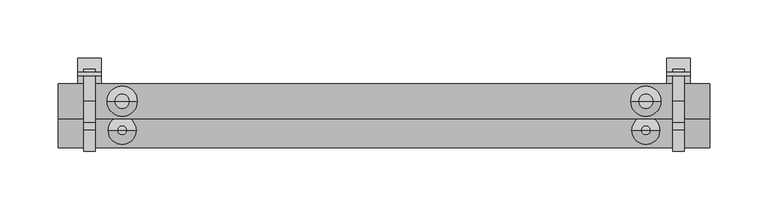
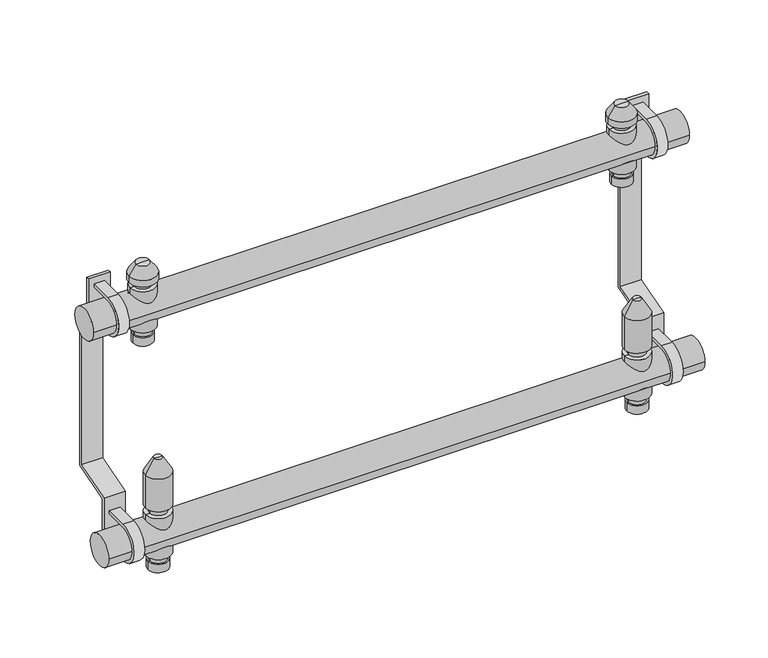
"""IFC4 building model written with IfcOpenShell, lengths in millimetres: valve geometry, PL CZ_Manifold_FT-VA : 10 circuits."""

from ifc_helpers import new_model, si_unit, point, frame, frame_2d, origin, origin_2d, place, context, project, spatial, polyline, circle_curve, trimmed, segment, composite_curve, outline, extrude, source, transform, mapped, element, save
from ifc_brep_helpers import plane_surface, cylinder_surface, revolved_surface, advanced_brep


def valve_1d137561(model_context):
    return source(origin(), model_context, "Body", "SolidModel", [
        advanced_brep(
        [(478.5, 0.0, -35.11267), (497.5, 0.0, -35.11267), (488.0, 0.0, -35.11267), (478.5, 0.0, -27.0369646), (497.5, 0.0, -27.0369646), (480.0, 0.0, -27.0369646), (496.0, 0.0, -27.0369646), (480.0, 0.0, -20.330253), (496.0, 0.0, -20.330253), (476.0, 0.0, -20.330253), (500.0, 0.0, -20.330253), (476.0, 0.0, 20.330253), (500.0, 0.0, 20.330253), (480.0, 0.0, 20.330253), (496.0, 0.0, 20.330253), (480.0, 0.0, 27.0474786), (496.0, 0.0, 27.0474786), (476.0, 0.0, 27.0474786), (500.0, 0.0, 27.0474786), (476.0, 0.0, 59.4084325), (500.0, 0.0, 59.4084325), (484.0, 0.0, 73.264839), (492.0, 0.0, 73.264839), (488.0, 0.0, 73.264839)],
        [
            (0, 1, circle_curve(frame((488.0, 0.0, -35.11267), z_axis=(0.0, 0.0, -1.0), x_axis=(1.0, 0.0, 0.0)), 9.5)),
            (1, 2),
            (2, 0),
            (1, 0, circle_curve(frame((488.0, 0.0, -35.11267), z_axis=(0.0, 0.0, -1.0), x_axis=(1.0, 0.0, 0.0)), 9.5)),
            (3, 4, circle_curve(frame((488.0, 0.0, -27.0369646), z_axis=(0.0, 0.0, -1.0), x_axis=(1.0, 0.0, 0.0)), 9.5)),
            (4, 1),
            (0, 3),
            (4, 3, circle_curve(frame((488.0, 0.0, -27.0369646), z_axis=(0.0, 0.0, -1.0), x_axis=(1.0, 0.0, 0.0)), 9.5)),
            (5, 6, circle_curve(frame((488.0, 0.0, -27.0369646), z_axis=(0.0, 0.0, -1.0), x_axis=(1.0, 0.0, 0.0)), 8.0)),
            (6, 4),
            (3, 5),
            (6, 5, circle_curve(frame((488.0, 0.0, -27.0369646), z_axis=(0.0, 0.0, -1.0), x_axis=(1.0, 0.0, 0.0)), 8.0)),
            (7, 8, circle_curve(frame((488.0, 0.0, -20.330253), z_axis=(0.0, 0.0, -1.0), x_axis=(1.0, 0.0, 0.0)), 8.0)),
            (8, 6),
            (5, 7),
            (8, 7, circle_curve(frame((488.0, 0.0, -20.330253), z_axis=(0.0, 0.0, -1.0), x_axis=(1.0, 0.0, 0.0)), 8.0)),
            (9, 10, circle_curve(frame((488.0, 0.0, -20.330253), z_axis=(0.0, 0.0, -1.0), x_axis=(1.0, 0.0, 0.0)), 12.0)),
            (10, 8),
            (7, 9),
            (10, 9, circle_curve(frame((488.0, 0.0, -20.330253), z_axis=(0.0, 0.0, -1.0), x_axis=(1.0, 0.0, 0.0)), 12.0)),
            (11, 12, circle_curve(frame((488.0, 0.0, 20.330253), z_axis=(0.0, 0.0, -1.0), x_axis=(1.0, 0.0, 0.0)), 12.0)),
            (12, 10),
            (9, 11),
            (12, 11, circle_curve(frame((488.0, 0.0, 20.330253), z_axis=(0.0, 0.0, -1.0), x_axis=(1.0, 0.0, 0.0)), 12.0)),
            (13, 14, circle_curve(frame((488.0, 0.0, 20.330253), z_axis=(0.0, 0.0, -1.0), x_axis=(1.0, 0.0, 0.0)), 8.0)),
            (14, 12),
            (11, 13),
            (14, 13, circle_curve(frame((488.0, 0.0, 20.330253), z_axis=(0.0, 0.0, -1.0), x_axis=(1.0, 0.0, 0.0)), 8.0)),
            (15, 16, circle_curve(frame((488.0, 0.0, 27.0474786), z_axis=(0.0, 0.0, -1.0), x_axis=(1.0, 0.0, 0.0)), 8.0)),
            (16, 14),
            (13, 15),
            (16, 15, circle_curve(frame((488.0, 0.0, 27.0474786), z_axis=(0.0, 0.0, -1.0), x_axis=(1.0, 0.0, 0.0)), 8.0)),
            (17, 18, circle_curve(frame((488.0, 0.0, 27.0474786), z_axis=(0.0, 0.0, -1.0), x_axis=(1.0, 0.0, 0.0)), 12.0)),
            (18, 16),
            (15, 17),
            (18, 17, circle_curve(frame((488.0, 0.0, 27.0474786), z_axis=(0.0, 0.0, -1.0), x_axis=(1.0, 0.0, 0.0)), 12.0)),
            (19, 20, circle_curve(frame((488.0, 0.0, 59.4084325), z_axis=(0.0, 0.0, -1.0), x_axis=(1.0, 0.0, 0.0)), 12.0)),
            (20, 18),
            (17, 19),
            (20, 19, circle_curve(frame((488.0, 0.0, 59.4084325), z_axis=(0.0, 0.0, -1.0), x_axis=(1.0, 0.0, 0.0)), 12.0)),
            (21, 22, circle_curve(frame((488.0, 0.0, 73.264839), z_axis=(0.0, 0.0, -1.0), x_axis=(1.0, 0.0, 0.0)), 4.0)),
            (22, 20),
            (19, 21),
            (22, 21, circle_curve(frame((488.0, 0.0, 73.264839), z_axis=(0.0, 0.0, -1.0), x_axis=(1.0, 0.0, 0.0)), 4.0)),
            (23, 22),
            (21, 23),
        ],
        [
            plane_surface(frame((488.0, 0.0, -35.11267), z_axis=(0.0, 0.0, -1.0), x_axis=(1.0, 0.0, 0.0))),
            cylinder_surface(frame((488.0, 0.0, 58.264839), z_axis=(0.0, 0.0, 1.0), x_axis=(1.0, 0.0, 0.0)), 9.5),
            plane_surface(frame((488.0, 0.0, -27.0369646), z_axis=(0.0, 0.0, 1.0), x_axis=(1.0, 0.0, 0.0))),
            cylinder_surface(frame((488.0, 0.0, 58.264839), z_axis=(0.0, 0.0, 1.0), x_axis=(1.0, 0.0, 0.0)), 8.0),
            plane_surface(frame((488.0, 0.0, -20.330253), z_axis=(0.0, 0.0, -1.0), x_axis=(1.0, 0.0, 0.0))),
            cylinder_surface(frame((488.0, 0.0, 58.264839), z_axis=(0.0, 0.0, 1.0), x_axis=(1.0, 0.0, 0.0)), 12.0),
            plane_surface(frame((488.0, 0.0, 20.330253), z_axis=(0.0, 0.0, 1.0), x_axis=(1.0, 0.0, 0.0))),
            plane_surface(frame((488.0, 0.0, 27.0474786), z_axis=(0.0, 0.0, -1.0), x_axis=(1.0, 0.0, 0.0))),
            revolved_surface(polyline([(500.0, 0.0, 59.4084325), (492.0, 0.0, 73.264839)]), (488.0, 0.0, 58.264839), (0.0, 0.0, 1.0)),
            plane_surface(frame((488.0, 0.0, 73.264839), z_axis=(0.0, 0.0, 1.0), x_axis=(1.0, 0.0, 0.0))),
        ],
        [
            (0, [[1, 2, 3]]),
            (0, [[4, -3, -2]]),
            (1, [[5, 6, -1, 7]]),
            (1, [[8, -7, -4, -6]]),
            (2, [[9, 10, -5, 11]]),
            (2, [[12, -11, -8, -10]]),
            (3, [[13, 14, -9, 15]]),
            (3, [[16, -15, -12, -14]]),
            (4, [[17, 18, -13, 19]]),
            (4, [[20, -19, -16, -18]]),
            (5, [[21, 22, -17, 23]]),
            (5, [[24, -23, -20, -22]]),
            (6, [[25, 26, -21, 27]]),
            (6, [[28, -27, -24, -26]]),
            (3, [[29, 30, -25, 31]]),
            (3, [[32, -31, -28, -30]]),
            (7, [[33, 34, -29, 35]]),
            (7, [[36, -35, -32, -34]]),
            (5, [[37, 38, -33, 39]]),
            (5, [[40, -39, -36, -38]]),
            (8, [[41, 42, -37, 43]]),
            (8, [[44, -43, -40, -42]]),
            (9, [[45, -41, 46]]),
            (9, [[-46, -44, -45]]),
        ],
    ),
        advanced_brep(
        [(478.5, 25.0, 174.88733), (497.5, 25.0, 174.88733), (488.0, 25.0, 174.88733), (478.5, 25.0, 182.9630354), (497.5, 25.0, 182.9630354), (480.0, 25.0, 182.9630354), (496.0, 25.0, 182.9630354), (480.0, 25.0, 189.669747), (496.0, 25.0, 189.669747), (476.0, 25.0, 189.669747), (500.0, 25.0, 189.669747), (476.0, 25.0, 230.330253), (500.0, 25.0, 230.330253), (480.0, 25.0, 230.330253), (496.0, 25.0, 230.330253), (480.0, 25.0, 236.0474786), (496.0, 25.0, 236.0474786), (475.0, 25.0, 236.0474786), (501.0, 25.0, 236.0474786), (475.0, 25.0, 242.337955), (501.0, 25.0, 242.337955), (481.6551779, 25.0, 251.842534), (494.3448221, 25.0, 251.842534), (488.0, 25.0, 251.842534)],
        [
            (0, 1, circle_curve(frame((488.0, 25.0, 174.88733), z_axis=(0.0, 0.0, -1.0), x_axis=(1.0, 0.0, 0.0)), 9.5)),
            (1, 2),
            (2, 0),
            (1, 0, circle_curve(frame((488.0, 25.0, 174.88733), z_axis=(0.0, 0.0, -1.0), x_axis=(1.0, 0.0, 0.0)), 9.5)),
            (3, 4, circle_curve(frame((488.0, 25.0, 182.9630354), z_axis=(0.0, 0.0, -1.0), x_axis=(1.0, 0.0, 0.0)), 9.5)),
            (4, 1),
            (0, 3),
            (4, 3, circle_curve(frame((488.0, 25.0, 182.9630354), z_axis=(0.0, 0.0, -1.0), x_axis=(1.0, 0.0, 0.0)), 9.5)),
            (5, 6, circle_curve(frame((488.0, 25.0, 182.9630354), z_axis=(0.0, 0.0, -1.0), x_axis=(1.0, 0.0, 0.0)), 8.0)),
            (6, 4),
            (3, 5),
            (6, 5, circle_curve(frame((488.0, 25.0, 182.9630354), z_axis=(0.0, 0.0, -1.0), x_axis=(1.0, 0.0, 0.0)), 8.0)),
            (7, 8, circle_curve(frame((488.0, 25.0, 189.669747), z_axis=(0.0, 0.0, -1.0), x_axis=(1.0, 0.0, 0.0)), 8.0)),
            (8, 6),
            (5, 7),
            (8, 7, circle_curve(frame((488.0, 25.0, 189.669747), z_axis=(0.0, 0.0, -1.0), x_axis=(1.0, 0.0, 0.0)), 8.0)),
            (9, 10, circle_curve(frame((488.0, 25.0, 189.669747), z_axis=(0.0, 0.0, -1.0), x_axis=(1.0, 0.0, 0.0)), 12.0)),
            (10, 8),
            (7, 9),
            (10, 9, circle_curve(frame((488.0, 25.0, 189.669747), z_axis=(0.0, 0.0, -1.0), x_axis=(1.0, 0.0, 0.0)), 12.0)),
            (11, 12, circle_curve(frame((488.0, 25.0, 230.330253), z_axis=(0.0, 0.0, -1.0), x_axis=(1.0, 0.0, 0.0)), 12.0)),
            (12, 10),
            (9, 11),
            (12, 11, circle_curve(frame((488.0, 25.0, 230.330253), z_axis=(0.0, 0.0, -1.0), x_axis=(1.0, 0.0, 0.0)), 12.0)),
            (13, 14, circle_curve(frame((488.0, 25.0, 230.330253), z_axis=(0.0, 0.0, -1.0), x_axis=(1.0, 0.0, 0.0)), 8.0)),
            (14, 12),
            (11, 13),
            (14, 13, circle_curve(frame((488.0, 25.0, 230.330253), z_axis=(0.0, 0.0, -1.0), x_axis=(1.0, 0.0, 0.0)), 8.0)),
            (15, 16, circle_curve(frame((488.0, 25.0, 236.0474786), z_axis=(0.0, 0.0, -1.0), x_axis=(1.0, 0.0, 0.0)), 8.0)),
            (16, 14),
            (13, 15),
            (16, 15, circle_curve(frame((488.0, 25.0, 236.0474786), z_axis=(0.0, 0.0, -1.0), x_axis=(1.0, 0.0, 0.0)), 8.0)),
            (17, 18, circle_curve(frame((488.0, 25.0, 236.0474786), z_axis=(0.0, 0.0, -1.0), x_axis=(1.0, 0.0, 0.0)), 13.0)),
            (18, 16),
            (15, 17),
            (18, 17, circle_curve(frame((488.0, 25.0, 236.0474786), z_axis=(0.0, 0.0, -1.0), x_axis=(1.0, 0.0, 0.0)), 13.0)),
            (19, 20, circle_curve(frame((488.0, 25.0, 242.337955), z_axis=(0.0, 0.0, -1.0), x_axis=(1.0, 0.0, 0.0)), 13.0)),
            (20, 18),
            (17, 19),
            (20, 19, circle_curve(frame((488.0, 25.0, 242.337955), z_axis=(0.0, 0.0, -1.0), x_axis=(1.0, 0.0, 0.0)), 13.0)),
            (21, 22, circle_curve(frame((488.0, 25.0, 251.842534), z_axis=(0.0, 0.0, -1.0), x_axis=(1.0, 0.0, 0.0)), 6.3448221)),
            (22, 20),
            (19, 21),
            (22, 21, circle_curve(frame((488.0, 25.0, 251.842534), z_axis=(0.0, 0.0, -1.0), x_axis=(1.0, 0.0, 0.0)), 6.3448221)),
            (23, 22),
            (21, 23),
        ],
        [
            plane_surface(frame((488.0, 25.0, 174.88733), z_axis=(0.0, 0.0, -1.0), x_axis=(1.0, 0.0, 0.0))),
            cylinder_surface(frame((488.0, 25.0, 247.7026565), z_axis=(0.0, 0.0, 1.0), x_axis=(1.0, 0.0, 0.0)), 9.5),
            plane_surface(frame((488.0, 25.0, 182.9630354), z_axis=(0.0, 0.0, 1.0), x_axis=(1.0, 0.0, 0.0))),
            cylinder_surface(frame((488.0, 25.0, 247.7026565), z_axis=(0.0, 0.0, 1.0), x_axis=(1.0, 0.0, 0.0)), 8.0),
            plane_surface(frame((488.0, 25.0, 189.669747), z_axis=(0.0, 0.0, -1.0), x_axis=(1.0, 0.0, 0.0))),
            cylinder_surface(frame((488.0, 25.0, 247.7026565), z_axis=(0.0, 0.0, 1.0), x_axis=(1.0, 0.0, 0.0)), 12.0),
            plane_surface(frame((488.0, 25.0, 230.330253), z_axis=(0.0, 0.0, 1.0), x_axis=(1.0, 0.0, 0.0))),
            plane_surface(frame((488.0, 25.0, 236.0474786), z_axis=(0.0, 0.0, -1.0), x_axis=(1.0, 0.0, 0.0))),
            cylinder_surface(frame((488.0, 25.0, 247.7026565), z_axis=(0.0, 0.0, 1.0), x_axis=(1.0, 0.0, 0.0)), 13.0),
            revolved_surface(polyline([(501.0, 25.0, 242.337955), (494.3448221, 25.0, 251.842534)]), (488.0, 25.0, 247.7026565), (0.0, 0.0, 1.0)),
            plane_surface(frame((488.0, 25.0, 251.842534), z_axis=(0.0, 0.0, 1.0), x_axis=(1.0, 0.0, 0.0))),
        ],
        [
            (0, [[1, 2, 3]]),
            (0, [[4, -3, -2]]),
            (1, [[5, 6, -1, 7]]),
            (1, [[8, -7, -4, -6]]),
            (2, [[9, 10, -5, 11]]),
            (2, [[12, -11, -8, -10]]),
            (3, [[13, 14, -9, 15]]),
            (3, [[16, -15, -12, -14]]),
            (4, [[17, 18, -13, 19]]),
            (4, [[20, -19, -16, -18]]),
            (5, [[21, 22, -17, 23]]),
            (5, [[24, -23, -20, -22]]),
            (6, [[25, 26, -21, 27]]),
            (6, [[28, -27, -24, -26]]),
            (3, [[29, 30, -25, 31]]),
            (3, [[32, -31, -28, -30]]),
            (7, [[33, 34, -29, 35]]),
            (7, [[36, -35, -32, -34]]),
            (8, [[37, 38, -33, 39]]),
            (8, [[40, -39, -36, -38]]),
            (9, [[41, 42, -37, 43]]),
            (9, [[44, -43, -40, -42]]),
            (10, [[45, -41, 46]]),
            (10, [[-46, -44, -45]]),
        ],
    ),
        advanced_brep(
        [(28.5, 25.0, 174.88733), (47.5, 25.0, 174.88733), (38.0, 25.0, 174.88733), (28.5, 25.0, 182.9630354), (47.5, 25.0, 182.9630354), (30.0, 25.0, 182.9630354), (46.0, 25.0, 182.9630354), (30.0, 25.0, 189.669747), (46.0, 25.0, 189.669747), (26.0, 25.0, 189.669747), (50.0, 25.0, 189.669747), (26.0, 25.0, 230.330253), (50.0, 25.0, 230.330253), (30.0, 25.0, 230.330253), (46.0, 25.0, 230.330253), (30.0, 25.0, 236.0474786), (46.0, 25.0, 236.0474786), (25.0, 25.0, 236.0474786), (51.0, 25.0, 236.0474786), (25.0, 25.0, 242.337955), (51.0, 25.0, 242.337955), (31.6551779, 25.0, 251.842534), (44.3448221, 25.0, 251.842534), (38.0, 25.0, 251.842534)],
        [
            (0, 1, circle_curve(frame((38.0, 25.0, 174.88733), z_axis=(0.0, 0.0, -1.0), x_axis=(1.0, 0.0, 0.0)), 9.5)),
            (1, 2),
            (2, 0),
            (1, 0, circle_curve(frame((38.0, 25.0, 174.88733), z_axis=(0.0, 0.0, -1.0), x_axis=(1.0, 0.0, 0.0)), 9.5)),
            (3, 4, circle_curve(frame((38.0, 25.0, 182.9630354), z_axis=(0.0, 0.0, -1.0), x_axis=(1.0, 0.0, 0.0)), 9.5)),
            (4, 1),
            (0, 3),
            (4, 3, circle_curve(frame((38.0, 25.0, 182.9630354), z_axis=(0.0, 0.0, -1.0), x_axis=(1.0, 0.0, 0.0)), 9.5)),
            (5, 6, circle_curve(frame((38.0, 25.0, 182.9630354), z_axis=(0.0, 0.0, -1.0), x_axis=(1.0, 0.0, 0.0)), 8.0)),
            (6, 4),
            (3, 5),
            (6, 5, circle_curve(frame((38.0, 25.0, 182.9630354), z_axis=(0.0, 0.0, -1.0), x_axis=(1.0, 0.0, 0.0)), 8.0)),
            (7, 8, circle_curve(frame((38.0, 25.0, 189.669747), z_axis=(0.0, 0.0, -1.0), x_axis=(1.0, 0.0, 0.0)), 8.0)),
            (8, 6),
            (5, 7),
            (8, 7, circle_curve(frame((38.0, 25.0, 189.669747), z_axis=(0.0, 0.0, -1.0), x_axis=(1.0, 0.0, 0.0)), 8.0)),
            (9, 10, circle_curve(frame((38.0, 25.0, 189.669747), z_axis=(0.0, 0.0, -1.0), x_axis=(1.0, 0.0, 0.0)), 12.0)),
            (10, 8),
            (7, 9),
            (10, 9, circle_curve(frame((38.0, 25.0, 189.669747), z_axis=(0.0, 0.0, -1.0), x_axis=(1.0, 0.0, 0.0)), 12.0)),
            (11, 12, circle_curve(frame((38.0, 25.0, 230.330253), z_axis=(0.0, 0.0, -1.0), x_axis=(1.0, 0.0, 0.0)), 12.0)),
            (12, 10),
            (9, 11),
            (12, 11, circle_curve(frame((38.0, 25.0, 230.330253), z_axis=(0.0, 0.0, -1.0), x_axis=(1.0, 0.0, 0.0)), 12.0)),
            (13, 14, circle_curve(frame((38.0, 25.0, 230.330253), z_axis=(0.0, 0.0, -1.0), x_axis=(1.0, 0.0, 0.0)), 8.0)),
            (14, 12),
            (11, 13),
            (14, 13, circle_curve(frame((38.0, 25.0, 230.330253), z_axis=(0.0, 0.0, -1.0), x_axis=(1.0, 0.0, 0.0)), 8.0)),
            (15, 16, circle_curve(frame((38.0, 25.0, 236.0474786), z_axis=(0.0, 0.0, -1.0), x_axis=(1.0, 0.0, 0.0)), 8.0)),
            (16, 14),
            (13, 15),
            (16, 15, circle_curve(frame((38.0, 25.0, 236.0474786), z_axis=(0.0, 0.0, -1.0), x_axis=(1.0, 0.0, 0.0)), 8.0)),
            (17, 18, circle_curve(frame((38.0, 25.0, 236.0474786), z_axis=(0.0, 0.0, -1.0), x_axis=(1.0, 0.0, 0.0)), 13.0)),
            (18, 16),
            (15, 17),
            (18, 17, circle_curve(frame((38.0, 25.0, 236.0474786), z_axis=(0.0, 0.0, -1.0), x_axis=(1.0, 0.0, 0.0)), 13.0)),
            (19, 20, circle_curve(frame((38.0, 25.0, 242.337955), z_axis=(0.0, 0.0, -1.0), x_axis=(1.0, 0.0, 0.0)), 13.0)),
            (20, 18),
            (17, 19),
            (20, 19, circle_curve(frame((38.0, 25.0, 242.337955), z_axis=(0.0, 0.0, -1.0), x_axis=(1.0, 0.0, 0.0)), 13.0)),
            (21, 22, circle_curve(frame((38.0, 25.0, 251.842534), z_axis=(0.0, 0.0, -1.0), x_axis=(1.0, 0.0, 0.0)), 6.3448221)),
            (22, 20),
            (19, 21),
            (22, 21, circle_curve(frame((38.0, 25.0, 251.842534), z_axis=(0.0, 0.0, -1.0), x_axis=(1.0, 0.0, 0.0)), 6.3448221)),
            (23, 22),
            (21, 23),
        ],
        [
            plane_surface(frame((38.0, 25.0, 174.88733), z_axis=(0.0, 0.0, -1.0), x_axis=(1.0, 0.0, 0.0))),
            cylinder_surface(frame((38.0, 25.0, 247.7026565), z_axis=(0.0, 0.0, 1.0), x_axis=(1.0, 0.0, 0.0)), 9.5),
            plane_surface(frame((38.0, 25.0, 182.9630354), z_axis=(0.0, 0.0, 1.0), x_axis=(1.0, 0.0, 0.0))),
            cylinder_surface(frame((38.0, 25.0, 247.7026565), z_axis=(0.0, 0.0, 1.0), x_axis=(1.0, 0.0, 0.0)), 8.0),
            plane_surface(frame((38.0, 25.0, 189.669747), z_axis=(0.0, 0.0, -1.0), x_axis=(1.0, 0.0, 0.0))),
            cylinder_surface(frame((38.0, 25.0, 247.7026565), z_axis=(0.0, 0.0, 1.0), x_axis=(1.0, 0.0, 0.0)), 12.0),
            plane_surface(frame((38.0, 25.0, 230.330253), z_axis=(0.0, 0.0, 1.0), x_axis=(1.0, 0.0, 0.0))),
            plane_surface(frame((38.0, 25.0, 236.0474786), z_axis=(0.0, 0.0, -1.0), x_axis=(1.0, 0.0, 0.0))),
            cylinder_surface(frame((38.0, 25.0, 247.7026565), z_axis=(0.0, 0.0, 1.0), x_axis=(1.0, 0.0, 0.0)), 13.0),
            revolved_surface(polyline([(51.0, 25.0, 242.337955), (44.3448221, 25.0, 251.842534)]), (38.0, 25.0, 247.7026565), (0.0, 0.0, 1.0)),
            plane_surface(frame((38.0, 25.0, 251.842534), z_axis=(0.0, 0.0, 1.0), x_axis=(1.0, 0.0, 0.0))),
        ],
        [
            (0, [[1, 2, 3]]),
            (0, [[4, -3, -2]]),
            (1, [[5, 6, -1, 7]]),
            (1, [[8, -7, -4, -6]]),
            (2, [[9, 10, -5, 11]]),
            (2, [[12, -11, -8, -10]]),
            (3, [[13, 14, -9, 15]]),
            (3, [[16, -15, -12, -14]]),
            (4, [[17, 18, -13, 19]]),
            (4, [[20, -19, -16, -18]]),
            (5, [[21, 22, -17, 23]]),
            (5, [[24, -23, -20, -22]]),
            (6, [[25, 26, -21, 27]]),
            (6, [[28, -27, -24, -26]]),
            (3, [[29, 30, -25, 31]]),
            (3, [[32, -31, -28, -30]]),
            (7, [[33, 34, -29, 35]]),
            (7, [[36, -35, -32, -34]]),
            (8, [[37, 38, -33, 39]]),
            (8, [[40, -39, -36, -38]]),
            (9, [[41, 42, -37, 43]]),
            (9, [[44, -43, -40, -42]]),
            (10, [[45, -41, 46]]),
            (10, [[-46, -44, -45]]),
        ],
    ),
        advanced_brep(
        [(28.5, 0.0, -35.11267), (47.5, 0.0, -35.11267), (38.0, 0.0, -35.11267), (28.5, 0.0, -27.0369646), (47.5, 0.0, -27.0369646), (30.0, 0.0, -27.0369646), (46.0, 0.0, -27.0369646), (30.0, 0.0, -20.330253), (46.0, 0.0, -20.330253), (26.0, 0.0, -20.330253), (50.0, 0.0, -20.330253), (26.0, 0.0, 20.330253), (50.0, 0.0, 20.330253), (30.0, 0.0, 20.330253), (46.0, 0.0, 20.330253), (30.0, 0.0, 27.0474786), (46.0, 0.0, 27.0474786), (26.0, 0.0, 27.0474786), (50.0, 0.0, 27.0474786), (26.0, 0.0, 59.4084325), (50.0, 0.0, 59.4084325), (34.0, 0.0, 73.264839), (42.0, 0.0, 73.264839), (38.0, 0.0, 73.264839)],
        [
            (0, 1, circle_curve(frame((38.0, 0.0, -35.11267), z_axis=(0.0, 0.0, -1.0), x_axis=(1.0, 0.0, 0.0)), 9.5)),
            (1, 2),
            (2, 0),
            (1, 0, circle_curve(frame((38.0, 0.0, -35.11267), z_axis=(0.0, 0.0, -1.0), x_axis=(1.0, 0.0, 0.0)), 9.5)),
            (3, 4, circle_curve(frame((38.0, 0.0, -27.0369646), z_axis=(0.0, 0.0, -1.0), x_axis=(1.0, 0.0, 0.0)), 9.5)),
            (4, 1),
            (0, 3),
            (4, 3, circle_curve(frame((38.0, 0.0, -27.0369646), z_axis=(0.0, 0.0, -1.0), x_axis=(1.0, 0.0, 0.0)), 9.5)),
            (5, 6, circle_curve(frame((38.0, 0.0, -27.0369646), z_axis=(0.0, 0.0, -1.0), x_axis=(1.0, 0.0, 0.0)), 8.0)),
            (6, 4),
            (3, 5),
            (6, 5, circle_curve(frame((38.0, 0.0, -27.0369646), z_axis=(0.0, 0.0, -1.0), x_axis=(1.0, 0.0, 0.0)), 8.0)),
            (7, 8, circle_curve(frame((38.0, 0.0, -20.330253), z_axis=(0.0, 0.0, -1.0), x_axis=(1.0, 0.0, 0.0)), 8.0)),
            (8, 6),
            (5, 7),
            (8, 7, circle_curve(frame((38.0, 0.0, -20.330253), z_axis=(0.0, 0.0, -1.0), x_axis=(1.0, 0.0, 0.0)), 8.0)),
            (9, 10, circle_curve(frame((38.0, 0.0, -20.330253), z_axis=(0.0, 0.0, -1.0), x_axis=(1.0, 0.0, 0.0)), 12.0)),
            (10, 8),
            (7, 9),
            (10, 9, circle_curve(frame((38.0, 0.0, -20.330253), z_axis=(0.0, 0.0, -1.0), x_axis=(1.0, 0.0, 0.0)), 12.0)),
            (11, 12, circle_curve(frame((38.0, 0.0, 20.330253), z_axis=(0.0, 0.0, -1.0), x_axis=(1.0, 0.0, 0.0)), 12.0)),
            (12, 10),
            (9, 11),
            (12, 11, circle_curve(frame((38.0, 0.0, 20.330253), z_axis=(0.0, 0.0, -1.0), x_axis=(1.0, 0.0, 0.0)), 12.0)),
            (13, 14, circle_curve(frame((38.0, 0.0, 20.330253), z_axis=(0.0, 0.0, -1.0), x_axis=(1.0, 0.0, 0.0)), 8.0)),
            (14, 12),
            (11, 13),
            (14, 13, circle_curve(frame((38.0, 0.0, 20.330253), z_axis=(0.0, 0.0, -1.0), x_axis=(1.0, 0.0, 0.0)), 8.0)),
            (15, 16, circle_curve(frame((38.0, 0.0, 27.0474786), z_axis=(0.0, 0.0, -1.0), x_axis=(1.0, 0.0, 0.0)), 8.0)),
            (16, 14),
            (13, 15),
            (16, 15, circle_curve(frame((38.0, 0.0, 27.0474786), z_axis=(0.0, 0.0, -1.0), x_axis=(1.0, 0.0, 0.0)), 8.0)),
            (17, 18, circle_curve(frame((38.0, 0.0, 27.0474786), z_axis=(0.0, 0.0, -1.0), x_axis=(1.0, 0.0, 0.0)), 12.0)),
            (18, 16),
            (15, 17),
            (18, 17, circle_curve(frame((38.0, 0.0, 27.0474786), z_axis=(0.0, 0.0, -1.0), x_axis=(1.0, 0.0, 0.0)), 12.0)),
            (19, 20, circle_curve(frame((38.0, 0.0, 59.4084325), z_axis=(0.0, 0.0, -1.0), x_axis=(1.0, 0.0, 0.0)), 12.0)),
            (20, 18),
            (17, 19),
            (20, 19, circle_curve(frame((38.0, 0.0, 59.4084325), z_axis=(0.0, 0.0, -1.0), x_axis=(1.0, 0.0, 0.0)), 12.0)),
            (21, 22, circle_curve(frame((38.0, 0.0, 73.264839), z_axis=(0.0, 0.0, -1.0), x_axis=(1.0, 0.0, 0.0)), 4.0)),
            (22, 20),
            (19, 21),
            (22, 21, circle_curve(frame((38.0, 0.0, 73.264839), z_axis=(0.0, 0.0, -1.0), x_axis=(1.0, 0.0, 0.0)), 4.0)),
            (23, 22),
            (21, 23),
        ],
        [
            plane_surface(frame((38.0, 0.0, -35.11267), z_axis=(0.0, 0.0, -1.0), x_axis=(1.0, 0.0, 0.0))),
            cylinder_surface(frame((38.0, 0.0, 58.264839), z_axis=(0.0, 0.0, 1.0), x_axis=(1.0, 0.0, 0.0)), 9.5),
            plane_surface(frame((38.0, 0.0, -27.0369646), z_axis=(0.0, 0.0, 1.0), x_axis=(1.0, 0.0, 0.0))),
            cylinder_surface(frame((38.0, 0.0, 58.264839), z_axis=(0.0, 0.0, 1.0), x_axis=(1.0, 0.0, 0.0)), 8.0),
            plane_surface(frame((38.0, 0.0, -20.330253), z_axis=(0.0, 0.0, -1.0), x_axis=(1.0, 0.0, 0.0))),
            cylinder_surface(frame((38.0, 0.0, 58.264839), z_axis=(0.0, 0.0, 1.0), x_axis=(1.0, 0.0, 0.0)), 12.0),
            plane_surface(frame((38.0, 0.0, 20.330253), z_axis=(0.0, 0.0, 1.0), x_axis=(1.0, 0.0, 0.0))),
            plane_surface(frame((38.0, 0.0, 27.0474786), z_axis=(0.0, 0.0, -1.0), x_axis=(1.0, 0.0, 0.0))),
            revolved_surface(polyline([(50.0, 0.0, 59.4084325), (42.0, 0.0, 73.264839)]), (38.0, 0.0, 58.264839), (0.0, 0.0, 1.0)),
            plane_surface(frame((38.0, 0.0, 73.264839), z_axis=(0.0, 0.0, 1.0), x_axis=(1.0, 0.0, 0.0))),
        ],
        [
            (0, [[1, 2, 3]]),
            (0, [[4, -3, -2]]),
            (1, [[5, 6, -1, 7]]),
            (1, [[8, -7, -4, -6]]),
            (2, [[9, 10, -5, 11]]),
            (2, [[12, -11, -8, -10]]),
            (3, [[13, 14, -9, 15]]),
            (3, [[16, -15, -12, -14]]),
            (4, [[17, 18, -13, 19]]),
            (4, [[20, -19, -16, -18]]),
            (5, [[21, 22, -17, 23]]),
            (5, [[24, -23, -20, -22]]),
            (6, [[25, 26, -21, 27]]),
            (6, [[28, -27, -24, -26]]),
            (3, [[29, 30, -25, 31]]),
            (3, [[32, -31, -28, -30]]),
            (7, [[33, 34, -29, 35]]),
            (7, [[36, -35, -32, -34]]),
            (5, [[37, 38, -33, 39]]),
            (5, [[40, -39, -36, -38]]),
            (8, [[41, 42, -37, 43]]),
            (8, [[44, -43, -40, -42]]),
            (9, [[45, -41, 46]]),
            (9, [[-46, -44, -45]]),
        ],
    ),
        extrude(outline(composite_curve([segment(trimmed(circle_curve(origin_2d(), 15.0), [point((0.0, 15.0))], [point((0.0, -15.0))], True, "CARTESIAN"), True, "CONTINUOUS"), segment(polyline([(0.0, -15.0), (27.6751284, -15.0), (27.6751284, -18.0), (0.0, -18.0)]), True, "CONTINUOUS"), segment(trimmed(circle_curve(origin_2d(), 18.0), [point((0.0, -18.0))], [point((0.0, 18.0))], False, "CARTESIAN"), True, "CONTINUOUS"), segment(polyline([(0.0, 18.0), (27.6751284, 18.0), (27.6751284, 15.0), (0.0, 15.0)]), True, "CONTINUOUS")], self_intersect=False)), frame((511.0, 0.0, 0.0), z_axis=(1.0, 0.0, 0.0), x_axis=(0.0, 1.0, 0.0)), (0.0, 0.0, 1.0), 10.0),
        extrude(outline(composite_curve([segment(trimmed(circle_curve(frame_2d((25.0, 210.0)), 15.0), [point((25.0, 225.0))], [point((25.0, 195.0))], True, "CARTESIAN"), True, "CONTINUOUS"), segment(polyline([(25.0, 195.0), (52.6751284, 195.0), (52.6751284, 192.0), (25.0, 192.0)]), True, "CONTINUOUS"), segment(trimmed(circle_curve(frame_2d((25.0, 210.0)), 18.0), [point((25.0, 192.0))], [point((25.0, 228.0))], False, "CARTESIAN"), True, "CONTINUOUS"), segment(polyline([(25.0, 228.0), (52.6751284, 228.0), (52.6751284, 225.0), (25.0, 225.0)]), True, "CONTINUOUS")], self_intersect=False)), frame((511.0, 0.0, 0.0), z_axis=(1.0, 0.0, 0.0), x_axis=(0.0, 1.0, 0.0)), (0.0, 0.0, 1.0), 10.0),
        extrude(outline(polyline([(62.0, 182.8840762), (62.0, 40.6095793), (25.0, 30.0), (25.0, -30.0), (22.0, -30.0), (22.0, 32.2606622), (59.0, 42.8702414), (59.0, 180.3667773), (47.0, 182.4827011), (47.0, 235.0), (50.0, 235.0), (50.0, 185.0), (62.0, 182.8840762)])), frame((506.0, 0.0, 0.0), z_axis=(1.0, 0.0, 0.0), x_axis=(0.0, 1.0, 0.0)), (0.0, 0.0, 1.0), 20.0),
        extrude(outline(composite_curve([segment(trimmed(circle_curve(origin_2d(), 15.0), [point((0.0, 15.0))], [point((0.0, -15.0))], True, "CARTESIAN"), True, "CONTINUOUS"), segment(polyline([(0.0, -15.0), (27.6751284, -15.0), (27.6751284, -18.0), (0.0, -18.0)]), True, "CONTINUOUS"), segment(trimmed(circle_curve(origin_2d(), 18.0), [point((0.0, -18.0))], [point((0.0, 18.0))], False, "CARTESIAN"), True, "CONTINUOUS"), segment(polyline([(0.0, 18.0), (27.6751284, 18.0), (27.6751284, 15.0), (0.0, 15.0)]), True, "CONTINUOUS")], self_intersect=False)), frame((5.0, 0.0, 0.0), z_axis=(1.0, 0.0, 0.0), x_axis=(0.0, 1.0, 0.0)), (0.0, 0.0, 1.0), 10.0),
        extrude(outline(composite_curve([segment(trimmed(circle_curve(frame_2d((25.0, 210.0)), 15.0), [point((25.0, 225.0))], [point((25.0, 195.0))], True, "CARTESIAN"), True, "CONTINUOUS"), segment(polyline([(25.0, 195.0), (52.6751284, 195.0), (52.6751284, 192.0), (25.0, 192.0)]), True, "CONTINUOUS"), segment(trimmed(circle_curve(frame_2d((25.0, 210.0)), 18.0), [point((25.0, 192.0))], [point((25.0, 228.0))], False, "CARTESIAN"), True, "CONTINUOUS"), segment(polyline([(25.0, 228.0), (52.6751284, 228.0), (52.6751284, 225.0), (25.0, 225.0)]), True, "CONTINUOUS")], self_intersect=False)), frame((5.0, 0.0, 0.0), z_axis=(1.0, 0.0, 0.0), x_axis=(0.0, 1.0, 0.0)), (0.0, 0.0, 1.0), 10.0),
        extrude(outline(polyline([(62.0, 182.8840762), (62.0, 40.6095793), (25.0, 30.0), (25.0, -30.0), (22.0, -30.0), (22.0, 32.2606622), (59.0, 42.8702414), (59.0, 180.3667773), (47.0, 182.4827011), (47.0, 235.0), (50.0, 235.0), (50.0, 185.0), (62.0, 182.8840762)])), frame((0.0, 0.0, 0.0), z_axis=(1.0, 0.0, 0.0), x_axis=(0.0, 1.0, 0.0)), (0.0, 0.0, 1.0), 20.0),
        extrude(outline(composite_curve([segment(trimmed(circle_curve(origin_2d(), 15.0), [point((15.0, 0.0))], [point((-15.0, 0.0))], False, "CARTESIAN"), True, "CONTINUOUS"), segment(trimmed(circle_curve(origin_2d(), 15.0), [point((-15.0, 0.0))], [point((15.0, 0.0))], False, "CARTESIAN"), True, "CONTINUOUS")], self_intersect=False)), frame((-17.0, 0.0, 0.0), z_axis=(1.0, 0.0, 0.0), x_axis=(0.0, 1.0, 0.0)), (0.0, 0.0, 1.0), 560.0),
        extrude(outline(composite_curve([segment(trimmed(circle_curve(frame_2d((25.0, 210.0)), 15.0), [point((40.0, 210.0))], [point((10.0, 210.0))], False, "CARTESIAN"), True, "CONTINUOUS"), segment(trimmed(circle_curve(frame_2d((25.0, 210.0)), 15.0), [point((10.0, 210.0))], [point((40.0, 210.0))], False, "CARTESIAN"), True, "CONTINUOUS")], self_intersect=False)), frame((-17.0, 0.0, 0.0), z_axis=(1.0, 0.0, 0.0), x_axis=(0.0, 1.0, 0.0)), (0.0, 0.0, 1.0), 560.0),
    ])


if __name__ == "__main__":
    model = new_model("IFC4")
    model_context = context("Model", 3, world=origin())
    ifc_project = project(units=[si_unit("LENGTHUNIT", "METRE", prefix="MILLI")], contexts=[model_context])
    site = spatial("IfcSite", under=ifc_project)
    building = spatial("IfcBuilding", under=site)
    placement = place(None, origin())
    valve_shape = valve_1d137561(model_context)
    element("IfcValve", 1, ObjectType="PL CZ_Manifold_FT-VA : 10 circuits", at=placement, inside=building, context=model_context, shape_type="MappedRepresentation", body=[
        mapped(valve_shape, transform((0.0, 0.0, 0.0), x_axis=(1.0, 0.0, 0.0), y_axis=(0.0, 1.0, 0.0), z_axis=(0.0, 0.0, 1.0))),
    ])
    save(model, "model.ifc")
